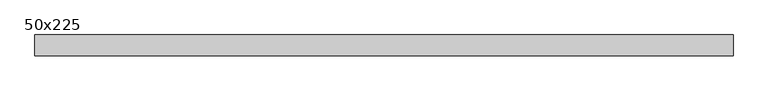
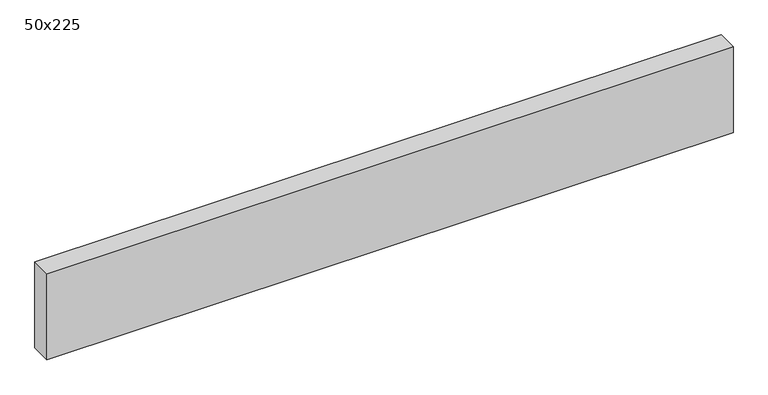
"""IFC4 building model written with IfcOpenShell, lengths in millimetres: beam geometry, Graded Timber : 50x225."""

from ifc_helpers import new_model, si_unit, frame, origin, place, context, project, spatial, polyline, outline, extrude, source, transform, mapped, element, save


def beam_50x225_bcbebb9e(model_context):
    return source(origin(), model_context, "Body", "SweptSolid", [
        extrude(outline(polyline([(828.5, 25.0), (828.5, -25.0), (-828.5, -25.0), (-828.5, 25.0), (828.5, 25.0)])), frame((0.0, 0.0, -110.0), z_axis=(0.0, 0.0, 1.0), x_axis=(1.0, 0.0, 0.0)), (0.0, 0.0, 1.0), 220.0),
    ])


if __name__ == "__main__":
    model = new_model("IFC4")
    model_context = context("Model", 3, world=origin())
    ifc_project = project(units=[si_unit("LENGTHUNIT", "METRE", prefix="MILLI")], contexts=[model_context])
    site = spatial("IfcSite", under=ifc_project)
    building = spatial("IfcBuilding", under=site)
    placement = place(None, origin())
    beam_50x225_shape = beam_50x225_bcbebb9e(model_context)
    element("IfcBeam", 1, ObjectType="Graded Timber : 50x225", at=placement, inside=building, context=model_context, shape_type="MappedRepresentation", body=[
        mapped(beam_50x225_shape, transform((0.0, 0.0, 0.0), x_axis=(1.0, 0.0, 0.0), y_axis=(0.0, 1.0, 0.0), z_axis=(0.0, 0.0, 1.0))),
    ])
    save(model, "model.ifc")
